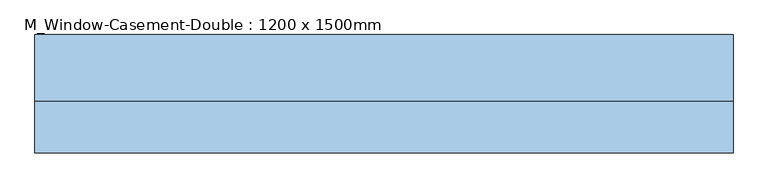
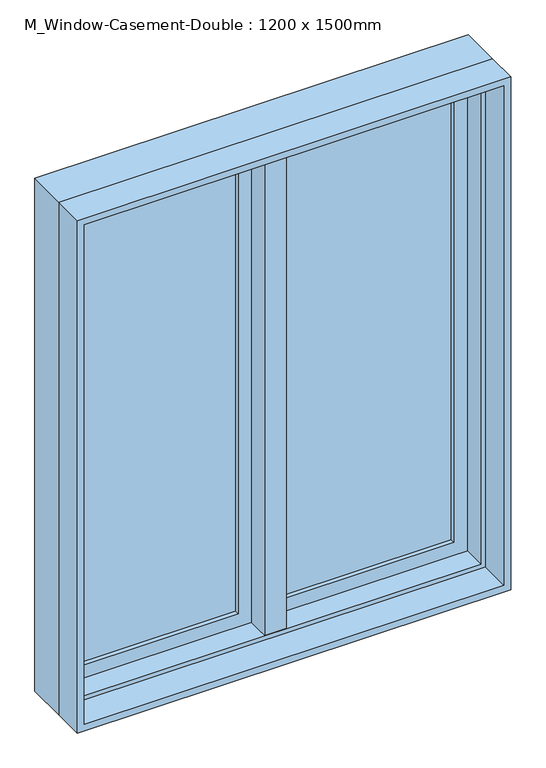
"""IFC4 building model written with IfcOpenShell, lengths in millimetres: window geometry, M_Window-Casement-Double : 1200 x 1500mm."""

from ifc_helpers import new_model, si_unit, frame, origin, place, context, project, spatial, polyline, outline, extrude, faceted_brep, source, transform, mapped, element, save


def m_window_casement_double_1200_x_1500mm_974e59ab(model_context):
    return source(origin(), model_context, "Body", "SolidModel", [
        faceted_brep([(568.25, 60.25, 2368.25), (568.25, -3.25, 2368.25), (-568.25, -3.25, 2368.25), (-568.25, 60.25, 2368.25), (587.3, 111.05, 2387.3), (587.3, 60.25, 2387.3), (-587.3, 60.25, 2387.3), (-587.3, 111.05, 2387.3), (600.0, -3.25, 2400.0), (600.0, 111.05, 2400.0), (-600.0, 111.05, 2400.0), (-600.0, -3.25, 2400.0), (-568.25, -3.25, 931.75), (-568.25, 60.25, 931.75), (-587.3, 60.25, 912.7), (-587.3, 111.05, 912.7), (-600.0, 111.05, 900.0), (-600.0, -3.25, 900.0), (568.25, -3.25, 931.75), (568.25, 60.25, 931.75), (587.3, 60.25, 912.7), (587.3, 111.05, 912.7), (600.0, 111.05, 900.0), (600.0, -3.25, 900.0)], [[[0, 1, 2, 3]], [[4, 5, 6, 7]], [[8, 9, 10, 11]], [[3, 2, 12, 13]], [[7, 6, 14, 15]], [[11, 10, 16, 17]], [[13, 12, 18, 19]], [[15, 14, 20, 21]], [[17, 16, 22, 23]], [[11, 17, 23, 8], [1, 18, 12, 2]], [[19, 18, 1, 0]], [[5, 20, 14, 6], [3, 13, 19, 0]], [[21, 20, 5, 4]], [[23, 22, 9, 8]], [[9, 22, 16, 10], [7, 15, 21, 4]]]),
        extrude(outline(polyline([(2400.0, -600.0), (900.0, -600.0), (900.0, 600.0), (2400.0, 600.0), (2400.0, -600.0)]), holes=[polyline([(2380.95, 580.95), (919.05, 580.95), (919.05, -580.95), (2380.95, -580.95), (2380.95, 580.95)])]), frame((0.0, -92.0, 0.0), z_axis=(0.0, 1.0, 0.0), x_axis=(0.0, 0.0, 1.0)), (0.0, 0.0, 1.0), 88.75),
        extrude(outline(polyline([(912.7, 587.3), (2387.3, 587.3), (2387.3, 9.525), (912.7, 9.525), (912.7, 587.3)]), holes=[polyline([(969.85, 66.675), (2330.15, 66.675), (2330.15, 530.15), (969.85, 530.15), (969.85, 66.675)])]), frame((0.0, 60.25, 0.0), z_axis=(0.0, 1.0, 0.0), x_axis=(0.0, 0.0, 1.0)), (0.0, 0.0, 1.0), 44.45),
        extrude(outline(polyline([(2387.3, -587.3), (912.7, -587.3), (912.7, -9.525), (2387.3, -9.525), (2387.3, -587.3)]), holes=[polyline([(2330.15, -66.675), (969.85, -66.675), (969.85, -530.15), (2330.15, -530.15), (2330.15, -66.675)])]), frame((0.0, 60.25, 0.0), z_axis=(0.0, 1.0, 0.0), x_axis=(0.0, 0.0, 1.0)), (0.0, 0.0, 1.0), 44.45),
        extrude(outline(polyline([(530.15, 92.0), (530.15, 85.65), (66.675, 85.65), (66.675, 92.0), (530.15, 92.0)])), frame((0.0, 0.0, 969.85), z_axis=(0.0, 0.0, 1.0), x_axis=(1.0, 0.0, 0.0)), (0.0, 0.0, 1.0), 1360.3),
        extrude(outline(polyline([(66.675, 72.95), (66.675, 79.3), (530.15, 79.3), (530.15, 72.95), (66.675, 72.95)])), frame((0.0, 0.0, 969.85), z_axis=(0.0, 0.0, 1.0), x_axis=(1.0, 0.0, 0.0)), (0.0, 0.0, 1.0), 1360.3),
        extrude(outline(polyline([(-66.675, 92.0), (-66.675, 85.65), (-530.15, 85.65), (-530.15, 92.0), (-66.675, 92.0)])), frame((0.0, 0.0, 969.85), z_axis=(0.0, 0.0, 1.0), x_axis=(1.0, 0.0, 0.0)), (0.0, 0.0, 1.0), 1360.3),
        extrude(outline(polyline([(-530.15, 72.95), (-530.15, 79.3), (-66.675, 79.3), (-66.675, 72.95), (-530.15, 72.95)])), frame((0.0, 0.0, 969.85), z_axis=(0.0, 0.0, 1.0), x_axis=(1.0, 0.0, 0.0)), (0.0, 0.0, 1.0), 1360.3),
        faceted_brep([(9.525, 111.05, 2387.3), (-9.525, 111.05, 2387.3), (-9.525, 60.25, 2387.3), (9.525, 60.25, 2387.3), (9.525, 111.05, 912.7), (9.525, 60.25, 912.7), (-9.525, 60.25, 912.7), (-9.525, 111.05, 912.7), (-9.525, 60.25, 931.75), (-9.525, 60.25, 2368.25), (-30.1625, 60.25, 931.75), (-30.1625, 60.25, 2368.25), (-30.1625, -3.25, 931.75), (-30.1625, -3.25, 2368.25), (30.1625, -3.25, 931.75), (30.1625, -3.25, 2368.25), (30.1625, 60.25, 931.75), (30.1625, 60.25, 2368.25), (9.525, 60.25, 931.75), (9.525, 60.25, 2368.25)], [[[0, 1, 2, 3]], [[4, 5, 6, 7]], [[1, 0, 4, 7]], [[2, 1, 7, 6, 8, 9]], [[9, 8, 10, 11]], [[11, 10, 12, 13]], [[13, 12, 14, 15]], [[15, 14, 16, 17]], [[17, 16, 18, 19]], [[0, 3, 19, 18, 5, 4]], [[18, 8, 6, 5]], [[9, 19, 3, 2]], [[8, 18, 16, 14, 12, 10]], [[19, 9, 11, 13, 15, 17]]]),
    ])


if __name__ == "__main__":
    model = new_model("IFC4")
    model_context = context("Model", 3, world=origin())
    ifc_project = project(units=[si_unit("LENGTHUNIT", "METRE", prefix="MILLI")], contexts=[model_context])
    site = spatial("IfcSite", under=ifc_project)
    building = spatial("IfcBuilding", under=site)
    placement = place(None, origin())
    m_window_casement_double_1200_x_1500mm_shape = m_window_casement_double_1200_x_1500mm_974e59ab(model_context)
    element("IfcWindow", 1, ObjectType="M_Window-Casement-Double : 1200 x 1500mm", at=placement, inside=building, context=model_context, shape_type="MappedRepresentation", body=[
        mapped(m_window_casement_double_1200_x_1500mm_shape, transform((0.0, 0.0, 0.0), x_axis=(1.0, 0.0, 0.0), y_axis=(0.0, 1.0, 0.0), z_axis=(0.0, 0.0, 1.0))),
    ])
    save(model, "model.ifc")
